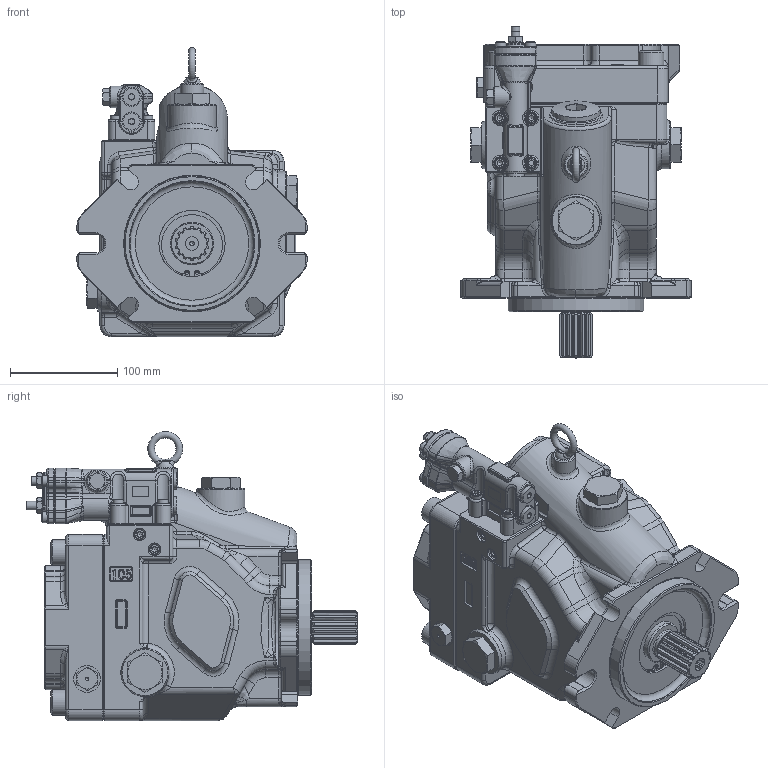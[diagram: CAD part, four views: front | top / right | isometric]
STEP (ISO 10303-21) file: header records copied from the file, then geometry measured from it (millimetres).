
FILE_DESCRIPTION(/* description */ (''),/* implementation_level */ '2;1');
FILE_NAME(/* name */ 'K3VLS105-1RRCH-L1A.stp',/* time_stamp */ '2025-09-23T15:30:29+01:00',/* author */ ('jhatcher'),/* organization */ (''),/* preprocessor_version */ 'ST-DEVELOPER v20',/* originating_system */ 'Autodesk Inventor 2024',/* authorisation */ '');
FILE_SCHEMA (('AUTOMOTIVE_DESIGN { 1 0 10303 214 3 1 1 }'));
Products named in the file (1): K3VLS105-1RRCH-L1A
Bounding box: 215 x 310 x 270.3 mm (x, y, z)
Volume: 6594962.7 mm3; surface area: 300061.8 mm2
Topology: 1 solids, 1 shells, 2517 faces, 6316 edges, 3889 vertices
Faces by surface type: plane 1139, cylinder 511, bspline 436, cone 296, torus 127, sphere 8
Full cylindrical faces by diameter (mm): 2.5 x2, 4 x3, 8 x2, 9.4 x3, 10 x8, 10.106 x4, 11 x8, 11.835 x4, 12 x3, 16 x2, 18 x2, 20 x1, 22 x1, 24 x4, 25 x1, 26 x5, 32 x1, 40 x1, 45 x2, 62 x1, 64 x1, 65 x1, 116 x1, 127 x1
Entity records: 88169 total; most frequent: CARTESIAN_POINT 30929, ORIENTED_EDGE 12502, DIRECTION 10960, EDGE_CURVE 6251, VERTEX_POINT 3889, AXIS2_PLACEMENT_3D 3847, LINE 3266, VECTOR 3266
